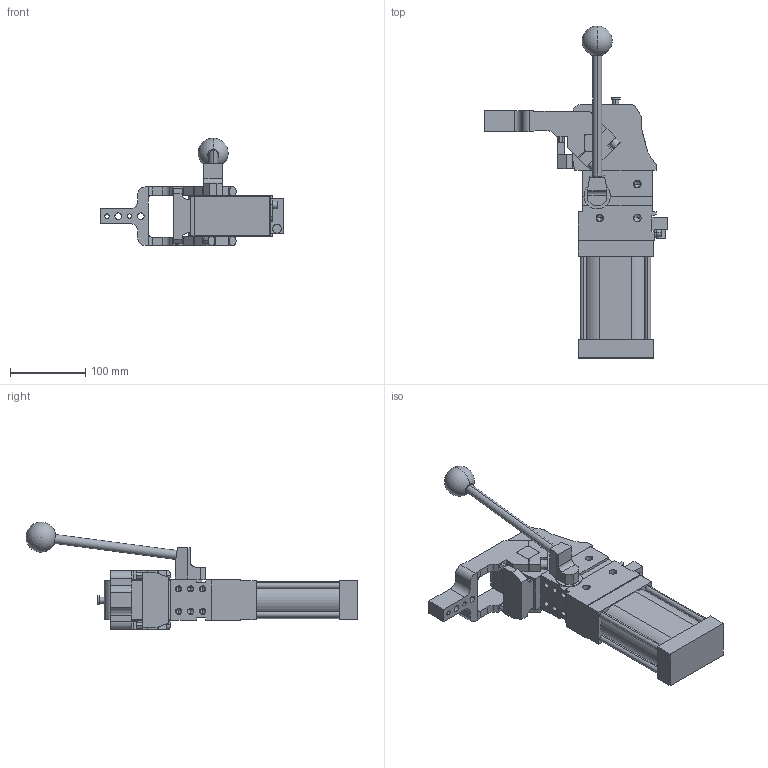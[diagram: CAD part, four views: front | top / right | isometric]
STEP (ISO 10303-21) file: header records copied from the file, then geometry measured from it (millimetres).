
FILE_DESCRIPTION (( 'STEP AP214' ), '1' );
FILE_NAME ('cplm63latv1ci1g_135.STEP', '2023-01-26T14:49:15', ( '' ), ( '' ), 'SwSTEP 2.0', 'SolidWorks 2022', '' );
FILE_SCHEMA (( 'AUTOMOTIVE_DESIGN' ));
Length unit declared in the file: millimetre
Products named in the file (5): cplm63latv1ci1g_135; leva_v1c_cpl63t; comando_manuale_cplm_63; blocchetto_VEP_0; meccanica_cplm_63_tassello_esterno
Assembly tree (4 placements, depth 2):
  cplm63latv1ci1g_135
    meccanica_cplm_63_tassello_esterno
    blocchetto_VEP_0
    leva_v1c_cpl63t
    comando_manuale_cplm_63
Bounding box: 244.5 x 442.23 x 143.5 mm (x, y, z)
Volume: 1889031.1 mm3; surface area: 212423.6 mm2
Topology: 4 solids, 4 shells, 465 faces, 1227 edges, 765 vertices
Faces by surface type: plane 250, cylinder 163, cone 50, sphere 2
Entity records: 15636 total; most frequent: CARTESIAN_POINT 2506, DIRECTION 2474, ORIENTED_EDGE 2352, EDGE_CURVE 1176, AXIS2_PLACEMENT_3D 836, VECTOR 802, LINE 802, VERTEX_POINT 762
